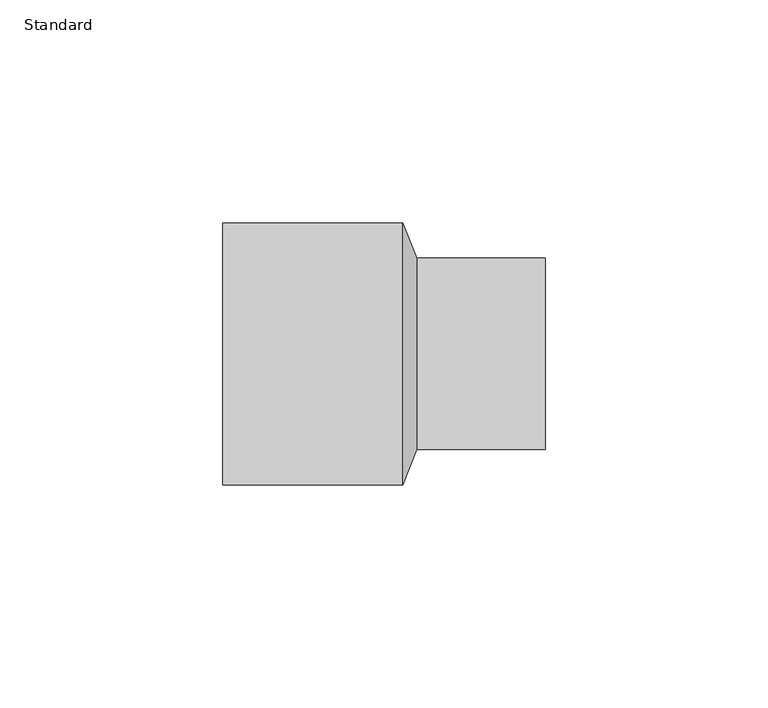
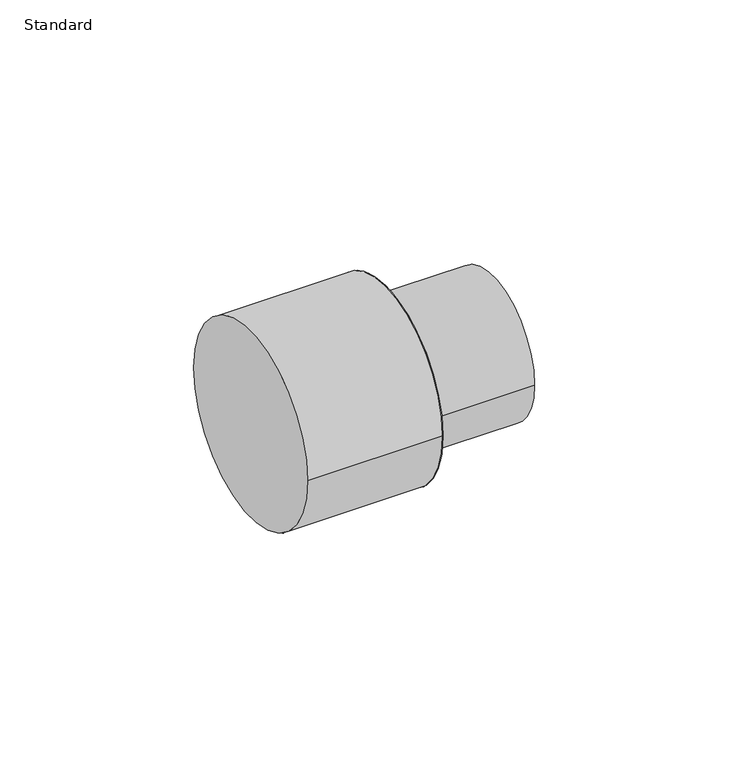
"""IFC4 building model written with IfcOpenShell, lengths in millimetres: pipe fitting geometry, M_Coupling Reducing - CPVC - Sch 40 : Standard."""

from ifc_helpers import new_model, si_unit, point, frame, origin, origin_2d, place, context, project, spatial, polyline, circle_curve, trimmed, segment, composite_curve, outline, extrude, source, transform, mapped, element, save
from ifc_brep_helpers import plane_surface, revolved_surface, advanced_brep


def standard_8b9c3306(model_context):
    return source(origin(), model_context, "Body", "SolidModel", [
        advanced_brep(
        [(43.496875, 21.463, 0.0), (43.496875, -21.463, 0.0), (40.321875, 29.3949219, 0.0), (40.321875, -29.3949219, 0.0)],
        [
            (0, 1, circle_curve(frame((43.496875, 0.0, 0.0), z_axis=(1.0, 4.273914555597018e-12, 0.0), x_axis=(4.273894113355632e-12, -1.0, 0.0)), 21.463)),
            (1, 0, circle_curve(frame((43.496875, 0.0, 0.0), z_axis=(1.0, 4.273914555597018e-12, 0.0), x_axis=(-4.273894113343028e-12, 1.0, 0.0)), 21.463)),
            (2, 3, circle_curve(frame((40.321875, 0.0, 0.0), z_axis=(-1.0, -4.273914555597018e-12, 0.0), x_axis=(-4.273894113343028e-12, 1.0, 0.0)), 29.3949219)),
            (3, 2, circle_curve(frame((40.321875, 0.0, 0.0), z_axis=(-1.0, -4.273914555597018e-12, 0.0), x_axis=(4.273894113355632e-12, -1.0, 0.0)), 29.3949219)),
            (2, 0),
            (1, 3),
        ],
        [
            plane_surface(frame((43.496875, 0.0, 0.0), z_axis=(1.0, 0.0, 0.0), x_axis=(0.0, 0.0, -1.0))),
            plane_surface(frame((40.321875, 0.0, 0.0), z_axis=(-1.0, 0.0, 0.0), x_axis=(0.0, 0.0, -1.0))),
            revolved_surface(polyline([(43.496875, 21.462999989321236, 0.0), (40.32187499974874, 29.394921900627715, 0.0)]), (52.0881125, 0.0, 0.0), (-1.0, -4.273914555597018e-12, 0.0)),
            revolved_surface(polyline([(43.496875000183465, -21.462999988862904, 0.0), (40.321875, -29.3949219, 0.0)]), (52.0881125, 0.0, 0.0), (-1.0, -4.273914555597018e-12, 0.0)),
        ],
        [
            (0, [[1, 2]]),
            (1, [[3, 4]]),
            (2, [[5, -2, 6, -3]]),
            (3, [[-6, -1, -5, -4]]),
        ],
    ),
        extrude(outline(composite_curve([segment(trimmed(circle_curve(origin_2d(), 21.463), [point((21.463, 0.0))], [point((-21.463, 0.0))], False, "CARTESIAN"), True, "CONTINUOUS"), segment(trimmed(circle_curve(origin_2d(), 21.463), [point((-21.463, 0.0))], [point((21.463, 0.0))], False, "CARTESIAN"), True, "CONTINUOUS")], self_intersect=False)), frame((43.496875, 0.0, 0.0), z_axis=(1.0, 0.0, 0.0), x_axis=(0.0, 1.0, 0.0)), (0.0, 0.0, 1.0), 28.702),
        extrude(outline(composite_curve([segment(trimmed(circle_curve(origin_2d(), 29.3949219), [point((29.3949219, 0.0))], [point((-29.3949219, 0.0))], False, "CARTESIAN"), True, "CONTINUOUS"), segment(trimmed(circle_curve(origin_2d(), 29.3949219), [point((-29.3949219, 0.0))], [point((29.3949219, 0.0))], False, "CARTESIAN"), True, "CONTINUOUS")], self_intersect=False)), frame((0.0, 0.0, 0.0), z_axis=(1.0, 0.0, 0.0), x_axis=(0.0, 1.0, 0.0)), (0.0, 0.0, 1.0), 40.321875),
    ])


if __name__ == "__main__":
    model = new_model("IFC4")
    model_context = context("Model", 3, world=origin())
    ifc_project = project(units=[si_unit("LENGTHUNIT", "METRE", prefix="MILLI")], contexts=[model_context])
    site = spatial("IfcSite", under=ifc_project)
    building = spatial("IfcBuilding", under=site)
    placement = place(None, origin())
    standard_shape = standard_8b9c3306(model_context)
    element("IfcPipeFitting", 1, ObjectType="M_Coupling Reducing - CPVC - Sch 40 : Standard", at=placement, inside=building, context=model_context, shape_type="MappedRepresentation", body=[
        mapped(standard_shape, transform((0.0, 0.0, 0.0), x_axis=(1.0, 0.0, 0.0), y_axis=(0.0, 1.0, 0.0), z_axis=(0.0, 0.0, 1.0))),
    ])
    save(model, "model.ifc")
